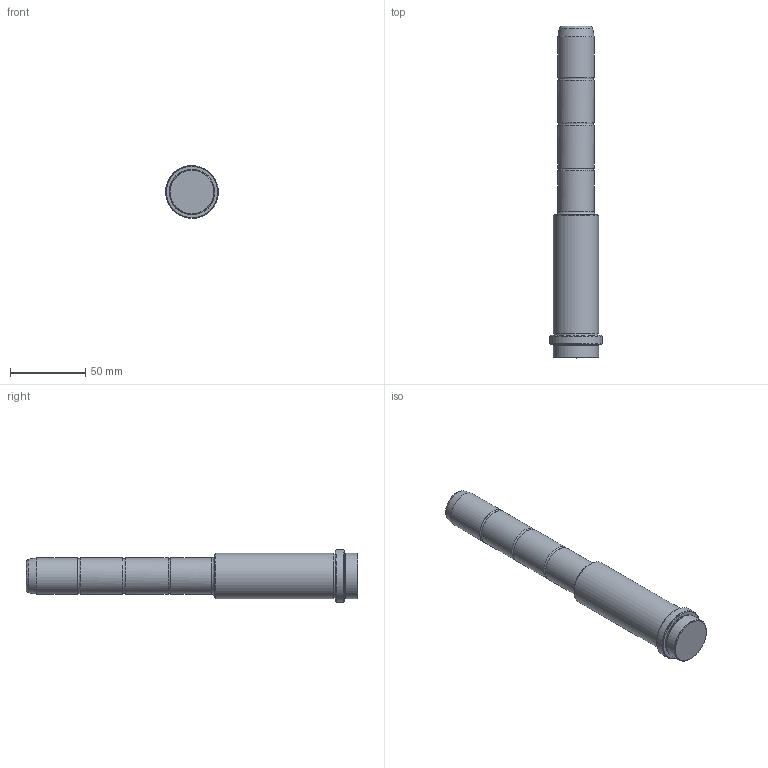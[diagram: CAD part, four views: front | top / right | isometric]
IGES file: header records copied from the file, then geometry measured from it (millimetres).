
Start section: Missler Software BP 521, 31674 Labege Cedex, France Tel   : +33 (0)5 61 00 03 00 Fax   : +33 (0)5 61 00 03 03 Email : sup.topsolid@topsolid.com
Global section: file name: D:\Cuma\24 03 2009\D03\D03_24X86X125.igs; native system: TopSolid v605250 Missler Software; preprocessor: IGES preprocessor v100000; date: 030101.002430; units: millimetre
Bounding box: 34.93 x 220 x 35 mm (x, y, z)
Surface area: 20260.1 mm2 (no closed solid volume)
Topology: 0 solids, 0 shells, 26 faces, 459 edges, 442 vertices
Faces by surface type: bspline 26
